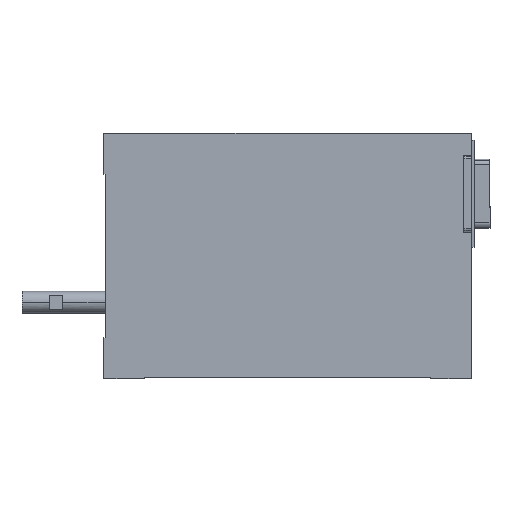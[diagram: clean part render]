
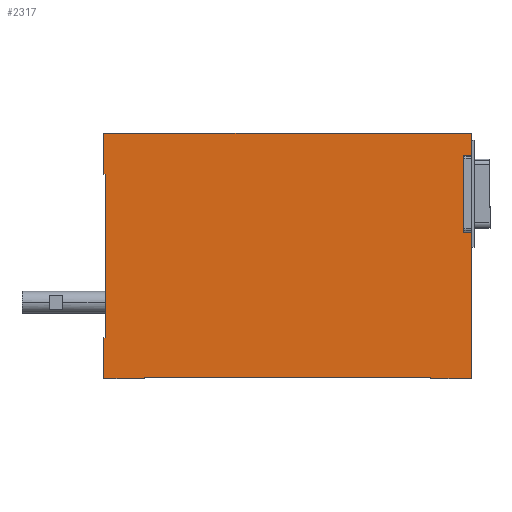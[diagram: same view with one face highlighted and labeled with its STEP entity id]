
A CAD part, top view. The second image highlights one B-rep face of the part: STEP entity #2317.
In plain terms, the highlighted planar face has unit normal (0, 0, 1).
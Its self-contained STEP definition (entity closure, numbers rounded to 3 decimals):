
#1408=CARTESIAN_POINT('',(67.0,34.5,19.8));
#1409=VERTEX_POINT('',#1408);
#1416=CARTESIAN_POINT('',(67.0,6.2,19.8));
#1417=VERTEX_POINT('',#1416);
#1418=CARTESIAN_POINT('',(67.0,34.5,19.8));
#1419=DIRECTION('',(0.0,-1.0,0.0));
#1420=VECTOR('',#1419,28.3);
#1421=LINE('',#1418,#1420);
#1422=EDGE_CURVE('',#1409,#1417,#1421,.T.);
#1439=CARTESIAN_POINT('',(55.,-47.5,19.8));
#1440=VERTEX_POINT('',#1439);
#1441=CARTESIAN_POINT('',(55.,-47.,19.8));
#1442=VERTEX_POINT('',#1441);
#1443=CARTESIAN_POINT('',(55.,-47.5,19.8));
#1444=DIRECTION('',(0.0,1.0,0.0));
#1445=VECTOR('',#1444,0.5);
#1446=LINE('',#1443,#1445);
#1447=EDGE_CURVE('',#1440,#1442,#1446,.T.);
#1470=CARTESIAN_POINT('',(-50.,-47.0,19.8));
#1471=VERTEX_POINT('',#1470);
#1472=CARTESIAN_POINT('',(55.,-47.,19.8));
#1473=DIRECTION('',(-1.0,0.0,0.0));
#1474=VECTOR('',#1473,105.);
#1475=LINE('',#1472,#1474);
#1476=EDGE_CURVE('',#1442,#1471,#1475,.T.);
#1494=CARTESIAN_POINT('',(-50.,-47.5,19.8));
#1495=VERTEX_POINT('',#1494);
#1496=CARTESIAN_POINT('',(-50.,-47.0,19.8));
#1497=DIRECTION('',(0.0,-1.0,0.0));
#1498=VECTOR('',#1497,0.5);
#1499=LINE('',#1496,#1498);
#1500=EDGE_CURVE('',#1471,#1495,#1499,.T.);
#2031=CARTESIAN_POINT('',(-65.,-47.5,19.8));
#2032=VERTEX_POINT('',#2031);
#2033=CARTESIAN_POINT('',(-50.,-47.5,19.8));
#2034=DIRECTION('',(-1.0,0.0,0.0));
#2035=VECTOR('',#2034,15.);
#2036=LINE('',#2033,#2035);
#2037=EDGE_CURVE('',#1495,#2032,#2036,.T.);
#2099=CARTESIAN_POINT('',(-65.0,42.5,19.8));
#2100=VERTEX_POINT('',#2099);
#2101=CARTESIAN_POINT('',(70.0,42.5,19.8));
#2102=VERTEX_POINT('',#2101);
#2103=CARTESIAN_POINT('',(-65.0,42.5,19.8));
#2104=DIRECTION('',(1.0,0.0,0.0));
#2105=VECTOR('',#2104,135.0);
#2106=LINE('',#2103,#2105);
#2107=EDGE_CURVE('',#2100,#2102,#2106,.T.);
#2196=CARTESIAN_POINT('',(70.0,34.5,19.8));
#2197=VERTEX_POINT('',#2196);
#2204=CARTESIAN_POINT('',(67.0,34.5,19.8));
#2205=DIRECTION('',(1.0,0.0,0.0));
#2206=VECTOR('',#2205,3.0);
#2207=LINE('',#2204,#2206);
#2208=EDGE_CURVE('',#1409,#2197,#2207,.T.);
#2237=CARTESIAN_POINT('',(-0.104,0.012,19.8));
#2238=DIRECTION('',(0.0,0.0,1.0));
#2239=DIRECTION('',(1.0,0.0,0.0));
#2240=AXIS2_PLACEMENT_3D('',#2237,#2238,#2239);
#2241=PLANE('',#2240);
#2242=ORIENTED_EDGE('',*,*,#2107,.F.);
#2243=CARTESIAN_POINT('',(-65.0,27.5,19.8));
#2244=VERTEX_POINT('',#2243);
#2245=CARTESIAN_POINT('',(-65.0,27.5,19.8));
#2246=DIRECTION('',(0.0,1.0,0.0));
#2247=VECTOR('',#2246,15.);
#2248=LINE('',#2245,#2247);
#2249=EDGE_CURVE('',#2244,#2100,#2248,.T.);
#2250=ORIENTED_EDGE('',*,*,#2249,.F.);
#2251=CARTESIAN_POINT('',(-64.5,27.5,19.8));
#2252=VERTEX_POINT('',#2251);
#2253=CARTESIAN_POINT('',(-64.5,27.5,19.8));
#2254=DIRECTION('',(-1.0,0.0,0.0));
#2255=VECTOR('',#2254,0.5);
#2256=LINE('',#2253,#2255);
#2257=EDGE_CURVE('',#2252,#2244,#2256,.T.);
#2258=ORIENTED_EDGE('',*,*,#2257,.F.);
#2259=CARTESIAN_POINT('',(-64.5,-32.5,19.8));
#2260=VERTEX_POINT('',#2259);
#2261=CARTESIAN_POINT('',(-64.5,-32.5,19.8));
#2262=DIRECTION('',(0.0,1.0,0.0));
#2263=VECTOR('',#2262,60.0);
#2264=LINE('',#2261,#2263);
#2265=EDGE_CURVE('',#2260,#2252,#2264,.T.);
#2266=ORIENTED_EDGE('',*,*,#2265,.F.);
#2267=CARTESIAN_POINT('',(-65.,-32.5,19.8));
#2268=VERTEX_POINT('',#2267);
#2269=CARTESIAN_POINT('',(-65.,-32.5,19.8));
#2270=DIRECTION('',(1.0,0.0,0.0));
#2271=VECTOR('',#2270,0.5);
#2272=LINE('',#2269,#2271);
#2273=EDGE_CURVE('',#2268,#2260,#2272,.T.);
#2274=ORIENTED_EDGE('',*,*,#2273,.F.);
#2275=CARTESIAN_POINT('',(-65.,-47.5,19.8));
#2276=DIRECTION('',(0.0,1.0,0.0));
#2277=VECTOR('',#2276,15.0);
#2278=LINE('',#2275,#2277);
#2279=EDGE_CURVE('',#2032,#2268,#2278,.T.);
#2280=ORIENTED_EDGE('',*,*,#2279,.F.);
#2281=ORIENTED_EDGE('',*,*,#2037,.F.);
#2282=ORIENTED_EDGE('',*,*,#1500,.F.);
#2283=ORIENTED_EDGE('',*,*,#1476,.F.);
#2284=ORIENTED_EDGE('',*,*,#1447,.F.);
#2285=CARTESIAN_POINT('',(70.,-47.5,19.8));
#2286=VERTEX_POINT('',#2285);
#2287=CARTESIAN_POINT('',(70.,-47.5,19.8));
#2288=DIRECTION('',(-1.0,0.0,0.0));
#2289=VECTOR('',#2288,15.);
#2290=LINE('',#2287,#2289);
#2291=EDGE_CURVE('',#2286,#1440,#2290,.T.);
#2292=ORIENTED_EDGE('',*,*,#2291,.F.);
#2293=CARTESIAN_POINT('',(70.0,6.2,19.8));
#2294=VERTEX_POINT('',#2293);
#2295=CARTESIAN_POINT('',(70.0,6.2,19.8));
#2296=DIRECTION('',(0.0,-1.0,0.0));
#2297=VECTOR('',#2296,53.7);
#2298=LINE('',#2295,#2297);
#2299=EDGE_CURVE('',#2294,#2286,#2298,.T.);
#2300=ORIENTED_EDGE('',*,*,#2299,.F.);
#2301=CARTESIAN_POINT('',(70.0,6.2,19.8));
#2302=DIRECTION('',(-1.0,0.0,0.0));
#2303=VECTOR('',#2302,3.0);
#2304=LINE('',#2301,#2303);
#2305=EDGE_CURVE('',#2294,#1417,#2304,.T.);
#2306=ORIENTED_EDGE('',*,*,#2305,.T.);
#2307=ORIENTED_EDGE('',*,*,#1422,.F.);
#2308=ORIENTED_EDGE('',*,*,#2208,.T.);
#2309=CARTESIAN_POINT('',(70.0,42.5,19.8));
#2310=DIRECTION('',(0.0,-1.0,0.0));
#2311=VECTOR('',#2310,8.0);
#2312=LINE('',#2309,#2311);
#2313=EDGE_CURVE('',#2102,#2197,#2312,.T.);
#2314=ORIENTED_EDGE('',*,*,#2313,.F.);
#2315=EDGE_LOOP('',(#2242,#2250,#2258,#2266,#2274,#2280,#2281,#2282,#2283,#2284,#2292,#2300,#2306,#2307,#2308,#2314));
#2316=FACE_OUTER_BOUND('',#2315,.T.);
#2317=ADVANCED_FACE('',(#2316),#2241,.T.);
